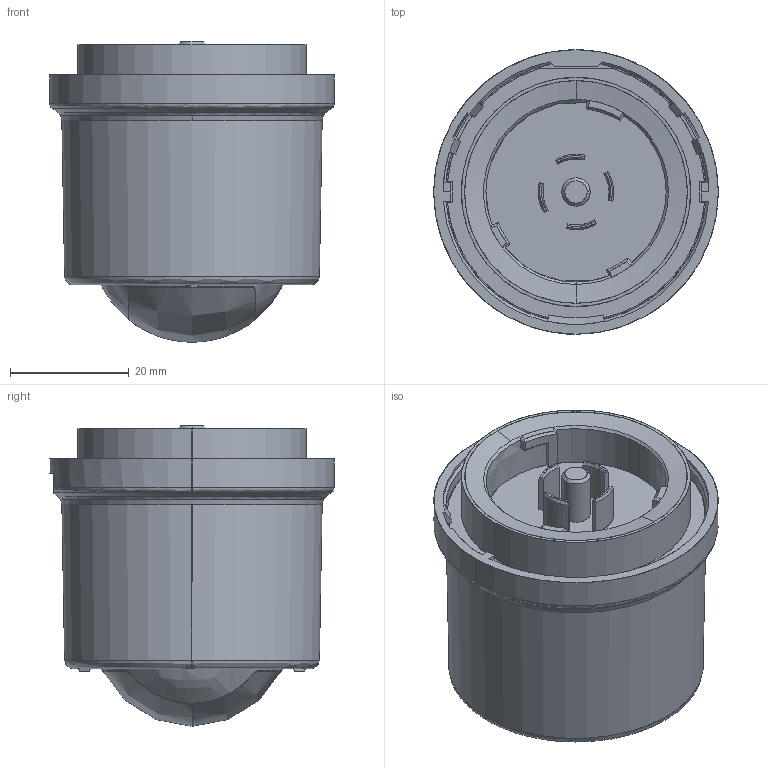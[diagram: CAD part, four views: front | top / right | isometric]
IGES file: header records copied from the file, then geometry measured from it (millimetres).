
Start section: SolidWorks IGES file using analytic representation for surfaces
Global section: file name: C:\Users\Public\HAOSENSOFTWARE\YFTSolidWorksArasPLM-V3.1.3-2023-beta\SaveAs_files\9C1-4551748-000-00.IGS; native system: SolidWorks 2023; preprocessor: SolidWorks 2023; author: P.SACHSENWEGER; date: 251017.123718; units: millimetre
Bounding box: 48 x 48 x 50.7 mm (x, y, z)
Surface area: 11526.2 mm2 (no closed solid volume)
Topology: 0 solids, 0 shells, 224 faces, 2463 edges, 2460 vertices
Faces by surface type: revolution 116, bspline 108
